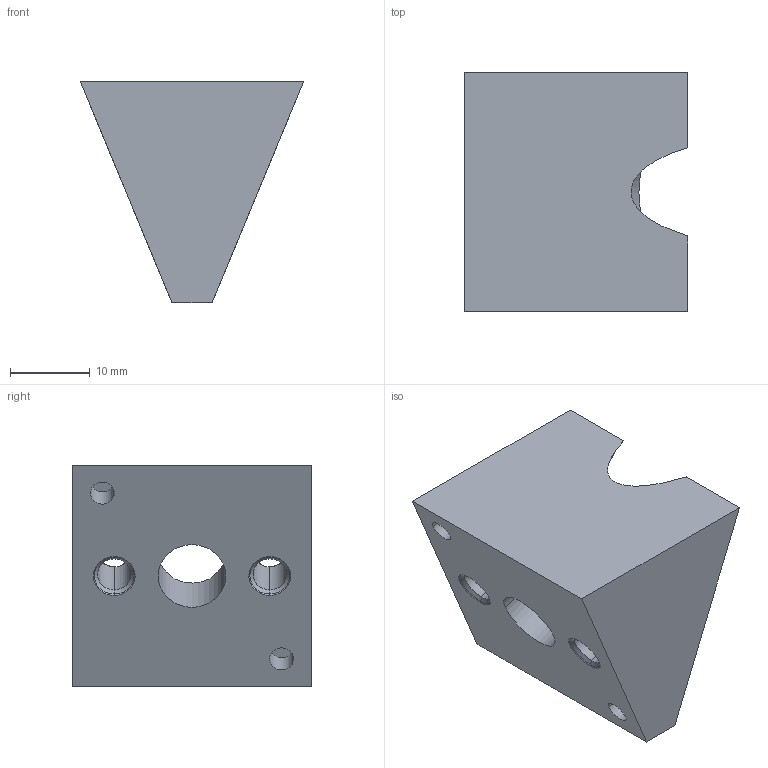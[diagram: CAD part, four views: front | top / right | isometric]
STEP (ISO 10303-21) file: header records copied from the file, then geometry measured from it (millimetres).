
FILE_DESCRIPTION((''),'2;1');
FILE_NAME('GIA3030','2002-12-27T',('Lipro doo'),('Lipro d.o.o.'),'PRO/ENGINEER BY PARAMETRIC TECHNOLOGY CORPORATION, 2001150','PRO/ENGINEER BY PARAMETRIC TECHNOLOGY CORPORATION, 2001150','');
FILE_SCHEMA(('CONFIG_CONTROL_DESIGN'));
Length unit declared in the file: millimetre
Products named in the file (1): GIA3030
Bounding box: 28 x 30 x 27.72 mm (x, y, z)
Volume: 10700.4 mm3; surface area: 5234.5 mm2
Topology: 1 solids, 5 shells, 45 faces, 111 edges, 74 vertices
Faces by surface type: cylinder 24, plane 13, cone 8
Entity records: 1484 total; most frequent: CARTESIAN_POINT 333, DIRECTION 245, ORIENTED_EDGE 206, EDGE_CURVE 111, AXIS2_PLACEMENT_3D 100, VERTEX_POINT 74, EDGE_LOOP 57, CIRCLE 54
